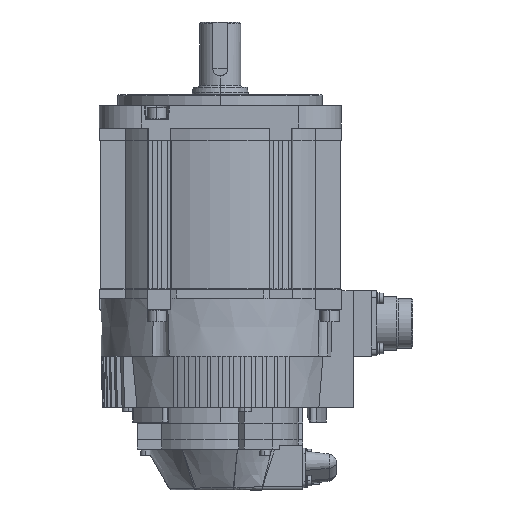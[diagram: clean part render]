
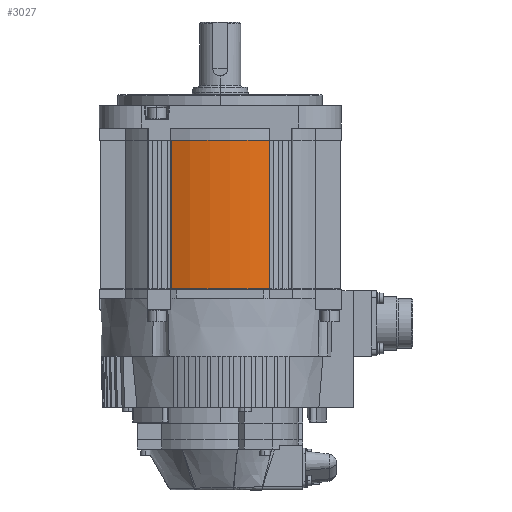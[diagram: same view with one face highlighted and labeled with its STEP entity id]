
A CAD part, left-side view. The second image highlights one B-rep face of the part: STEP entity #3027.
In plain terms, the highlighted cylindrical face has radius 64.3 mm (diameter 128.6 mm), a partial arc.
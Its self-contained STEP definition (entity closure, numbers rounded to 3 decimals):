
#1993 = CYLINDRICAL_SURFACE ( 'NONE', #7149, 64.3 ) ;
#2361 = EDGE_CURVE ( 'NONE', #20540, #7252, #11772, .T. ) ;
#2950 = LINE ( 'NONE', #13753, #16149 ) ;
#3027 = ADVANCED_FACE ( 'NONE', ( #38905 ), #1993, .T. ) ;
#4923 = VERTEX_POINT ( 'NONE', #31770 ) ;
#5206 = DIRECTION ( 'NONE',  ( 0., 0., 1. ) ) ;
#7103 = EDGE_LOOP ( 'NONE', ( #43912, #23104, #26912, #17993 ) ) ;
#7149 = AXIS2_PLACEMENT_3D ( 'NONE', #43297, #5206, #39392 ) ;
#7252 = VERTEX_POINT ( 'NONE', #21639 ) ;
#7689 = DIRECTION ( 'NONE',  ( 1., 0., 0. ) ) ;
#10662 = AXIS2_PLACEMENT_3D ( 'NONE', #38220, #11836, #7689 ) ;
#11518 = CARTESIAN_POINT ( 'NONE',  ( -58.677, 26.297, -98.4 ) ) ;
#11772 = LINE ( 'NONE', #12745, #14162 ) ;
#11836 = DIRECTION ( 'NONE',  ( 0., 0., -1. ) ) ;
#12170 = CIRCLE ( 'NONE', #39468, 64.3 ) ;
#12745 = CARTESIAN_POINT ( 'NONE',  ( -58.677, -26.297, -116.906 ) ) ;
#13753 = CARTESIAN_POINT ( 'NONE',  ( -58.677, 26.297, -116.906 ) ) ;
#14162 = VECTOR ( 'NONE', #22774, 1000. ) ;
#16149 = VECTOR ( 'NONE', #25876, 1000. ) ;
#16735 = DIRECTION ( 'NONE',  ( 1., 0., 0. ) ) ;
#16968 = DIRECTION ( 'NONE',  ( 0., 0., -1. ) ) ;
#17857 = CARTESIAN_POINT ( 'NONE',  ( -58.677, -26.297, -98.4 ) ) ;
#17993 = ORIENTED_EDGE ( 'NONE', *, *, #2361, .T. ) ;
#18811 = VERTEX_POINT ( 'NONE', #11518 ) ;
#20540 = VERTEX_POINT ( 'NONE', #17857 ) ;
#21639 = CARTESIAN_POINT ( 'NONE',  ( -58.677, -26.297, -18.6 ) ) ;
#22141 = EDGE_CURVE ( 'NONE', #4923, #18811, #2950, .T. ) ;
#22774 = DIRECTION ( 'NONE',  ( 0., 0., 1. ) ) ;
#23104 = ORIENTED_EDGE ( 'NONE', *, *, #22141, .T. ) ;
#25876 = DIRECTION ( 'NONE',  ( 0., 0., -1. ) ) ;
#26912 = ORIENTED_EDGE ( 'NONE', *, *, #39650, .F. ) ;
#31770 = CARTESIAN_POINT ( 'NONE',  ( -58.677, 26.297, -18.6 ) ) ;
#32546 = CARTESIAN_POINT ( 'NONE',  ( 0., 0., -98.4 ) ) ;
#38220 = CARTESIAN_POINT ( 'NONE',  ( 0., 0., -18.6 ) ) ;
#38905 = FACE_OUTER_BOUND ( 'NONE', #7103, .T. ) ;
#39392 = DIRECTION ( 'NONE',  ( 1., 0., 0. ) ) ;
#39468 = AXIS2_PLACEMENT_3D ( 'NONE', #32546, #16968, #16735 ) ;
#39650 = EDGE_CURVE ( 'NONE', #20540, #18811, #12170, .T. ) ;
#43297 = CARTESIAN_POINT ( 'NONE',  ( 0., 0., -200.368 ) ) ;
#43410 = CIRCLE ( 'NONE', #10662, 64.3 ) ;
#43912 = ORIENTED_EDGE ( 'NONE', *, *, #45103, .T. ) ;
#45103 = EDGE_CURVE ( 'NONE', #7252, #4923, #43410, .T. ) ;
